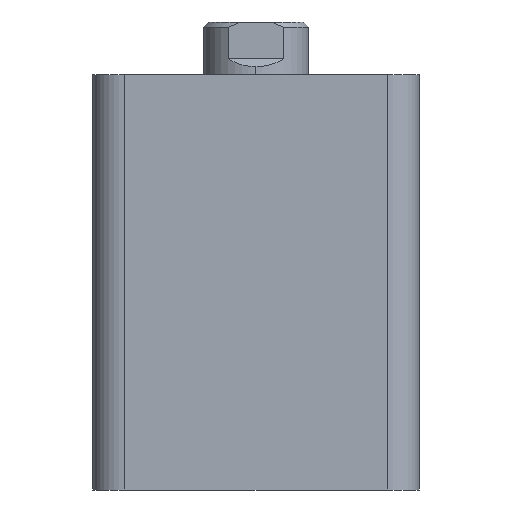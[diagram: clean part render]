
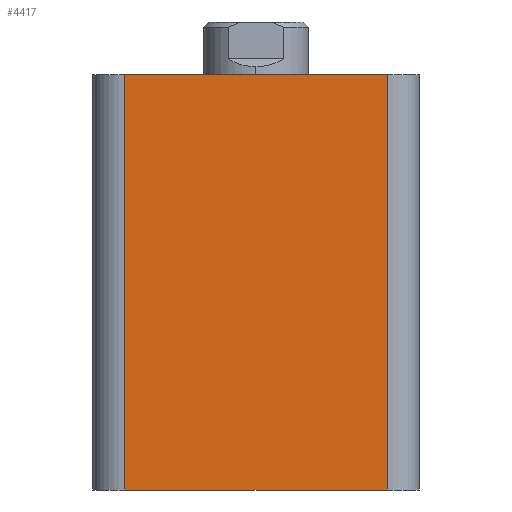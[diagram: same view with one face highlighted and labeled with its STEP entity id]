
A CAD part, left-side view. The second image highlights one B-rep face of the part: STEP entity #4417.
In plain terms, the highlighted planar face has unit normal (-1, 0, 0).
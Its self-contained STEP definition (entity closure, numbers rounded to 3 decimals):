
#134 = CARTESIAN_POINT ( 'NONE',  ( -31., -25., 79. ) ) ;
#328 = FACE_OUTER_BOUND ( 'NONE', #3943, .T. ) ;
#615 = VECTOR ( 'NONE', #2677, 1000. ) ;
#630 = VECTOR ( 'NONE', #2670, 1000. ) ;
#914 = CARTESIAN_POINT ( 'NONE',  ( -31., 31., 79. ) ) ;
#921 = PLANE ( 'NONE',  #1729 ) ;
#923 = DIRECTION ( 'NONE',  ( 1., 0., 0. ) ) ;
#924 = DIRECTION ( 'NONE',  ( 0., 0., -1. ) ) ;
#1405 = EDGE_CURVE ( 'NONE', #3381, #3362, #3483, .T. ) ;
#1442 = EDGE_CURVE ( 'NONE', #3285, #3295, #2709, .T. ) ;
#1463 = EDGE_CURVE ( 'NONE', #3295, #3362, #5085, .T. ) ;
#1464 = EDGE_CURVE ( 'NONE', #3381, #3285, #5086, .T. ) ;
#1729 = AXIS2_PLACEMENT_3D ( 'NONE', #914, #923, #924 ) ;
#1820 = ORIENTED_EDGE ( 'NONE', *, *, #1464, .T. ) ;
#1846 = ORIENTED_EDGE ( 'NONE', *, *, #1442, .T. ) ;
#1940 = ORIENTED_EDGE ( 'NONE', *, *, #1463, .T. ) ;
#1985 = ORIENTED_EDGE ( 'NONE', *, *, #1405, .F. ) ;
#2474 = CARTESIAN_POINT ( 'NONE',  ( -31., 25., 0. ) ) ;
#2484 = CARTESIAN_POINT ( 'NONE',  ( -31., -25., 0. ) ) ;
#2550 = CARTESIAN_POINT ( 'NONE',  ( -31., -25., 79. ) ) ;
#2569 = CARTESIAN_POINT ( 'NONE',  ( -31., 25., 79. ) ) ;
#2670 = DIRECTION ( 'NONE',  ( 0., 0., 1. ) ) ;
#2672 = CARTESIAN_POINT ( 'NONE',  ( -31., 25., 79. ) ) ;
#2677 = DIRECTION ( 'NONE',  ( 0., 0., -1. ) ) ;
#2703 = VECTOR ( 'NONE', #3188, 1000. ) ;
#2709 = LINE ( 'NONE', #3163, #2703 ) ;
#3125 = CARTESIAN_POINT ( 'NONE',  ( -31., 31., 79. ) ) ;
#3163 = CARTESIAN_POINT ( 'NONE',  ( -31., 31., 0. ) ) ;
#3188 = DIRECTION ( 'NONE',  ( 0., -1., 0. ) ) ;
#3191 = DIRECTION ( 'NONE',  ( 0., -1., 0. ) ) ;
#3285 = VERTEX_POINT ( 'NONE', #2474 ) ;
#3295 = VERTEX_POINT ( 'NONE', #2484 ) ;
#3362 = VERTEX_POINT ( 'NONE', #2550 ) ;
#3381 = VERTEX_POINT ( 'NONE', #2569 ) ;
#3481 = VECTOR ( 'NONE', #3191, 1000. ) ;
#3483 = LINE ( 'NONE', #3125, #3481 ) ;
#3943 = EDGE_LOOP ( 'NONE', ( #1846, #1940, #1985, #1820 ) ) ;
#4417 = ADVANCED_FACE ( 'NONE', ( #328 ), #921, .F. ) ;
#5085 = LINE ( 'NONE', #134, #630 ) ;
#5086 = LINE ( 'NONE', #2672, #615 ) ;
